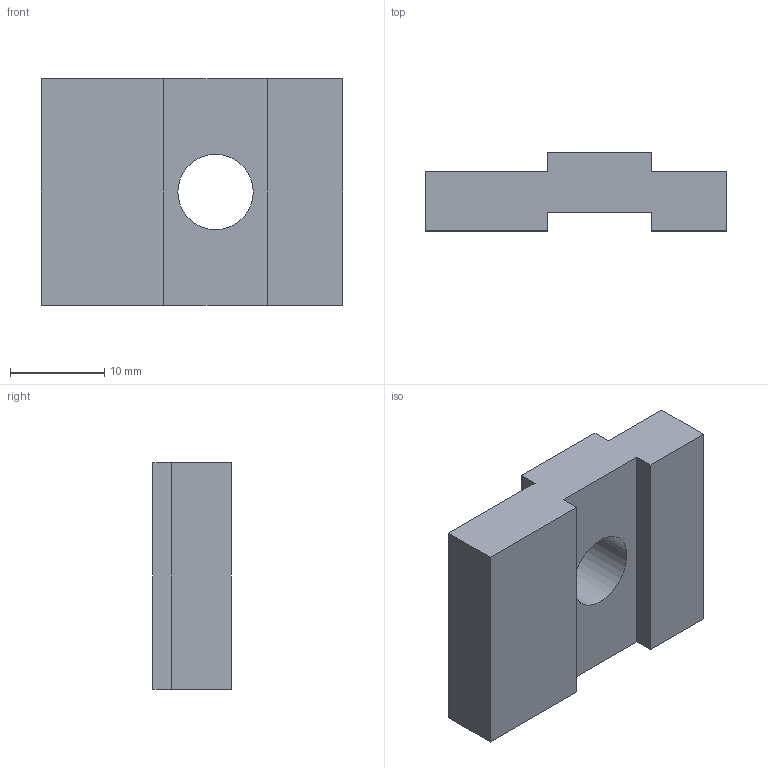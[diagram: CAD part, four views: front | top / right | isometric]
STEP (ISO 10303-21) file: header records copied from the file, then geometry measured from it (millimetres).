
FILE_DESCRIPTION (( 'STEP AP214' ), '1' );
FILE_NAME ('FGRD 6.step', '2017-04-05T07:39:37', ( '' ), ( '' ), 'SwSTEP 2.0', 'SolidWorks 2015', '' );
FILE_SCHEMA (( 'AUTOMOTIVE_DESIGN' ));
Length unit declared in the file: millimetre
Products named in the file (1): FGRD 6
Bounding box: 32 x 8.3 x 24 mm (x, y, z)
Volume: 4521.7 mm3; surface area: 2491.4 mm2
Topology: 1 solids, 1 shells, 16 faces, 42 edges, 28 vertices
Faces by surface type: plane 14, cylinder 2
Entity records: 528 total; most frequent: CARTESIAN_POINT 87, ORIENTED_EDGE 84, DIRECTION 80, EDGE_CURVE 42, LINE 38, VECTOR 38, VERTEX_POINT 28, AXIS2_PLACEMENT_3D 21
